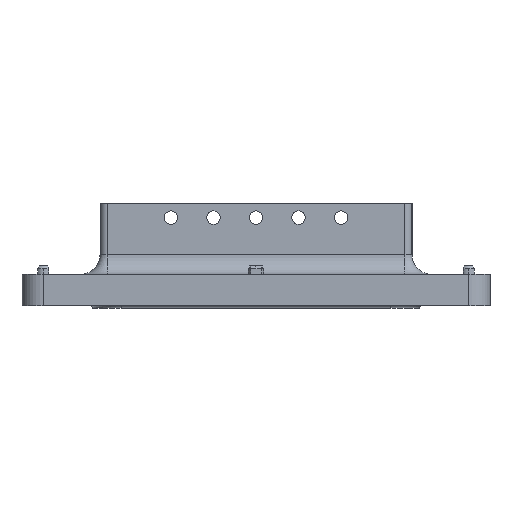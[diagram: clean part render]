
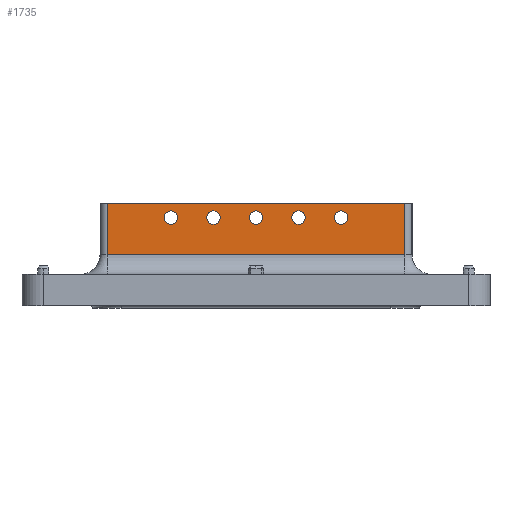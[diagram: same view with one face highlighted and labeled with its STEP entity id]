
A CAD part, left-side view. The second image highlights one B-rep face of the part: STEP entity #1735.
In plain terms, the highlighted planar face has unit normal (-1, 0, 0).
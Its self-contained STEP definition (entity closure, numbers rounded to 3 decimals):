
#1735=ADVANCED_FACE('Rib.2',(#4035,#4036,#4037,#4038,#4039,#4040),#4041,.T.);
#4035=FACE_OUTER_BOUND('',#7061,.T.);
#4036=FACE_BOUND('',#7062,.T.);
#4037=FACE_BOUND('',#7063,.T.);
#4038=FACE_BOUND('',#7064,.T.);
#4039=FACE_BOUND('',#7065,.T.);
#4040=FACE_BOUND('',#7066,.T.);
#4041=PLANE('',#7067);
#7061=EDGE_LOOP('',(#11917,#11918,#11919,#11920));
#7062=EDGE_LOOP('',(#11921,#11922,#11923,#11924));
#7063=EDGE_LOOP('',(#11925,#11926,#11927,#11928));
#7064=EDGE_LOOP('',(#11929,#11930,#11931,#11932));
#7065=EDGE_LOOP('',(#11933,#11934,#11935,#11936));
#7066=EDGE_LOOP('',(#11937,#11938,#11939,#11940));
#7067=AXIS2_PLACEMENT_3D('',#11941,#11942,#11943);
#11917=ORIENTED_EDGE('',*,*,#18582,.F.);
#11918=ORIENTED_EDGE('',*,*,#18644,.F.);
#11919=ORIENTED_EDGE('',*,*,#18641,.T.);
#11920=ORIENTED_EDGE('',*,*,#18542,.F.);
#11921=ORIENTED_EDGE('',*,*,#17392,.F.);
#11922=ORIENTED_EDGE('',*,*,#17395,.F.);
#11923=ORIENTED_EDGE('',*,*,#18645,.F.);
#11924=ORIENTED_EDGE('',*,*,#18646,.F.);
#11925=ORIENTED_EDGE('',*,*,#17095,.F.);
#11926=ORIENTED_EDGE('',*,*,#17098,.F.);
#11927=ORIENTED_EDGE('',*,*,#18647,.F.);
#11928=ORIENTED_EDGE('',*,*,#18648,.F.);
#11929=ORIENTED_EDGE('',*,*,#17356,.F.);
#11930=ORIENTED_EDGE('',*,*,#17359,.F.);
#11931=ORIENTED_EDGE('',*,*,#18649,.F.);
#11932=ORIENTED_EDGE('',*,*,#18650,.F.);
#11933=ORIENTED_EDGE('',*,*,#17140,.F.);
#11934=ORIENTED_EDGE('',*,*,#17143,.F.);
#11935=ORIENTED_EDGE('',*,*,#18651,.F.);
#11936=ORIENTED_EDGE('',*,*,#18652,.F.);
#11937=ORIENTED_EDGE('',*,*,#17239,.F.);
#11938=ORIENTED_EDGE('',*,*,#17242,.F.);
#11939=ORIENTED_EDGE('',*,*,#18653,.F.);
#11940=ORIENTED_EDGE('',*,*,#18654,.F.);
#11941=CARTESIAN_POINT('',(-185.0,110.0,74.0));
#11942=DIRECTION('',(-1.0,-0.0,-0.0));
#11943=DIRECTION('',(0.0,0.0,-1.0));
#17095=EDGE_CURVE('',#20314,#20310,#20316,.T.);
#17098=EDGE_CURVE('',#20318,#20314,#20321,.T.);
#17140=EDGE_CURVE('',#20389,#20385,#20391,.T.);
#17143=EDGE_CURVE('',#20393,#20389,#20396,.T.);
#17239=EDGE_CURVE('',#20554,#20550,#20556,.T.);
#17242=EDGE_CURVE('',#20558,#20554,#20561,.T.);
#17356=EDGE_CURVE('',#20749,#20745,#20751,.T.);
#17359=EDGE_CURVE('',#20753,#20749,#20756,.T.);
#17392=EDGE_CURVE('',#20809,#20805,#20811,.T.);
#17395=EDGE_CURVE('',#20813,#20809,#20816,.T.);
#18542=EDGE_CURVE('',#22643,#22667,#22671,.F.);
#18582=EDGE_CURVE('',#22723,#22643,#22725,.T.);
#18641=EDGE_CURVE('',#22818,#22667,#22819,.T.);
#18644=EDGE_CURVE('',#22818,#22723,#22822,.T.);
#18645=EDGE_CURVE('',#22823,#20813,#22824,.T.);
#18646=EDGE_CURVE('',#20805,#22823,#22825,.T.);
#18647=EDGE_CURVE('',#22826,#20318,#22827,.T.);
#18648=EDGE_CURVE('',#20310,#22826,#22828,.T.);
#18649=EDGE_CURVE('',#22829,#20753,#22830,.T.);
#18650=EDGE_CURVE('',#20745,#22829,#22831,.T.);
#18651=EDGE_CURVE('',#22832,#20393,#22833,.T.);
#18652=EDGE_CURVE('',#20385,#22832,#22834,.T.);
#18653=EDGE_CURVE('',#22835,#20558,#22836,.T.);
#18654=EDGE_CURVE('',#20550,#22835,#22837,.T.);
#20310=VERTEX_POINT('',#25031);
#20314=VERTEX_POINT('',#25036);
#20316=CIRCLE('',#25039,4.75);
#20318=VERTEX_POINT('',#25041);
#20321=CIRCLE('',#25045,4.75);
#20385=VERTEX_POINT('',#25121);
#20389=VERTEX_POINT('',#25126);
#20391=CIRCLE('',#25129,4.75);
#20393=VERTEX_POINT('',#25131);
#20396=CIRCLE('',#25135,4.75);
#20550=VERTEX_POINT('',#25319);
#20554=VERTEX_POINT('',#25324);
#20556=CIRCLE('',#25327,4.75);
#20558=VERTEX_POINT('',#25329);
#20561=CIRCLE('',#25333,4.75);
#20745=VERTEX_POINT('',#25553);
#20749=VERTEX_POINT('',#25558);
#20751=CIRCLE('',#25561,4.75);
#20753=VERTEX_POINT('',#25563);
#20756=CIRCLE('',#25567,4.75);
#20805=VERTEX_POINT('',#25625);
#20809=VERTEX_POINT('',#25630);
#20811=CIRCLE('',#25633,4.75);
#20813=VERTEX_POINT('',#25635);
#20816=CIRCLE('',#25639,4.75);
#22643=VERTEX_POINT('',#27804);
#22667=VERTEX_POINT('',#27831);
#22671=LINE('',#27835,#27836);
#22723=VERTEX_POINT('',#27893);
#22725=LINE('',#27895,#27896);
#22818=VERTEX_POINT('',#28005);
#22819=LINE('',#28006,#28007);
#22822=LINE('',#28010,#28011);
#22823=VERTEX_POINT('',#28012);
#22824=CIRCLE('',#28013,4.75);
#22825=CIRCLE('',#28014,4.75);
#22826=VERTEX_POINT('',#28015);
#22827=CIRCLE('',#28016,4.75);
#22828=CIRCLE('',#28017,4.75);
#22829=VERTEX_POINT('',#28018);
#22830=CIRCLE('',#28019,4.75);
#22831=CIRCLE('',#28020,4.75);
#22832=VERTEX_POINT('',#28021);
#22833=CIRCLE('',#28022,4.75);
#22834=CIRCLE('',#28023,4.75);
#22835=VERTEX_POINT('',#28024);
#22836=CIRCLE('',#28025,4.75);
#22837=CIRCLE('',#28026,4.75);
#25031=CARTESIAN_POINT('',(-185.0,64.75,64.0));
#25036=CARTESIAN_POINT('',(-185.0,55.831,66.277));
#25039=AXIS2_PLACEMENT_3D('',#30785,#30786,#30787);
#25041=CARTESIAN_POINT('',(-185.0,55.25,64.0));
#25045=AXIS2_PLACEMENT_3D('',#30789,#30790,#30791);
#25121=CARTESIAN_POINT('',(-185.0,-55.25,64.0));
#25126=CARTESIAN_POINT('',(-185.0,-64.169,66.277));
#25129=AXIS2_PLACEMENT_3D('',#30860,#30861,#30862);
#25131=CARTESIAN_POINT('',(-185.0,-64.75,64.0));
#25135=AXIS2_PLACEMENT_3D('',#30864,#30865,#30866);
#25319=CARTESIAN_POINT('',(-185.0,-25.25,64.0));
#25324=CARTESIAN_POINT('',(-185.0,-34.169,66.277));
#25327=AXIS2_PLACEMENT_3D('',#31025,#31026,#31027);
#25329=CARTESIAN_POINT('',(-185.0,-34.75,64.0));
#25333=AXIS2_PLACEMENT_3D('',#31029,#31030,#31031);
#25553=CARTESIAN_POINT('',(-185.0,34.75,64.0));
#25558=CARTESIAN_POINT('',(-185.0,25.831,66.277));
#25561=AXIS2_PLACEMENT_3D('',#31220,#31221,#31222);
#25563=CARTESIAN_POINT('',(-185.0,25.25,64.0));
#25567=AXIS2_PLACEMENT_3D('',#31224,#31225,#31226);
#25625=CARTESIAN_POINT('',(-185.0,4.75,64.0));
#25630=CARTESIAN_POINT('',(-185.0,-4.169,66.277));
#25633=AXIS2_PLACEMENT_3D('',#31280,#31281,#31282);
#25635=CARTESIAN_POINT('',(-185.0,-4.75,64.0));
#25639=AXIS2_PLACEMENT_3D('',#31284,#31285,#31286);
#27804=CARTESIAN_POINT('',(-185.0,-105.0,38.0));
#27831=CARTESIAN_POINT('',(-185.0,105.0,38.0));
#27835=CARTESIAN_POINT('',(-185.0,0.,38.0));
#27836=VECTOR('',#33371,1.0);
#27893=CARTESIAN_POINT('',(-185.0,-105.0,74.0));
#27895=CARTESIAN_POINT('',(-185.0,-105.0,56.0));
#27896=VECTOR('',#33440,1.0);
#28005=CARTESIAN_POINT('',(-185.0,105.0,74.0));
#28006=CARTESIAN_POINT('',(-185.0,105.0,56.0));
#28007=VECTOR('',#33565,1.0);
#28010=CARTESIAN_POINT('',(-185.0,0.0,74.0));
#28011=VECTOR('',#33569,1.0);
#28012=CARTESIAN_POINT('',(-185.0,4.169,61.723));
#28013=AXIS2_PLACEMENT_3D('',#33570,#33571,#33572);
#28014=AXIS2_PLACEMENT_3D('',#33573,#33574,#33575);
#28015=CARTESIAN_POINT('',(-185.0,64.169,61.723));
#28016=AXIS2_PLACEMENT_3D('',#33576,#33577,#33578);
#28017=AXIS2_PLACEMENT_3D('',#33579,#33580,#33581);
#28018=CARTESIAN_POINT('',(-185.0,34.169,61.723));
#28019=AXIS2_PLACEMENT_3D('',#33582,#33583,#33584);
#28020=AXIS2_PLACEMENT_3D('',#33585,#33586,#33587);
#28021=CARTESIAN_POINT('',(-185.0,-55.831,61.723));
#28022=AXIS2_PLACEMENT_3D('',#33588,#33589,#33590);
#28023=AXIS2_PLACEMENT_3D('',#33591,#33592,#33593);
#28024=CARTESIAN_POINT('',(-185.0,-25.831,61.723));
#28025=AXIS2_PLACEMENT_3D('',#33594,#33595,#33596);
#28026=AXIS2_PLACEMENT_3D('',#33597,#33598,#33599);
#30785=CARTESIAN_POINT('',(-185.0,60.0,64.0));
#30786=DIRECTION('',(-1.0,-0.0,-0.0));
#30787=DIRECTION('',(0.0,0.0,-1.0));
#30789=CARTESIAN_POINT('',(-185.0,60.0,64.0));
#30790=DIRECTION('',(-1.0,-0.0,-0.0));
#30791=DIRECTION('',(0.0,0.0,-1.0));
#30860=CARTESIAN_POINT('',(-185.0,-60.0,64.0));
#30861=DIRECTION('',(-1.0,-0.0,-0.0));
#30862=DIRECTION('',(0.0,0.0,-1.0));
#30864=CARTESIAN_POINT('',(-185.0,-60.0,64.0));
#30865=DIRECTION('',(-1.0,-0.0,-0.0));
#30866=DIRECTION('',(0.0,0.0,-1.0));
#31025=CARTESIAN_POINT('',(-185.0,-30.0,64.0));
#31026=DIRECTION('',(-1.0,-0.0,-0.0));
#31027=DIRECTION('',(0.0,0.0,-1.0));
#31029=CARTESIAN_POINT('',(-185.0,-30.0,64.0));
#31030=DIRECTION('',(-1.0,-0.0,-0.0));
#31031=DIRECTION('',(0.0,0.0,-1.0));
#31220=CARTESIAN_POINT('',(-185.0,30.0,64.0));
#31221=DIRECTION('',(-1.0,-0.0,-0.0));
#31222=DIRECTION('',(0.0,0.0,-1.0));
#31224=CARTESIAN_POINT('',(-185.0,30.0,64.0));
#31225=DIRECTION('',(-1.0,-0.0,-0.0));
#31226=DIRECTION('',(0.0,0.0,-1.0));
#31280=CARTESIAN_POINT('',(-185.0,0.0,64.0));
#31281=DIRECTION('',(-1.0,-0.0,-0.0));
#31282=DIRECTION('',(0.0,0.0,-1.0));
#31284=CARTESIAN_POINT('',(-185.0,0.0,64.0));
#31285=DIRECTION('',(-1.0,-0.0,-0.0));
#31286=DIRECTION('',(0.0,0.0,-1.0));
#33371=DIRECTION('',(0.0,-1.0,0.0));
#33440=DIRECTION('',(0.0,0.0,-1.0));
#33565=DIRECTION('',(0.0,0.0,-1.0));
#33569=DIRECTION('',(0.0,-1.0,0.0));
#33570=CARTESIAN_POINT('',(-185.0,0.0,64.0));
#33571=DIRECTION('',(-1.0,-0.0,-0.0));
#33572=DIRECTION('',(0.0,0.0,-1.0));
#33573=CARTESIAN_POINT('',(-185.0,0.0,64.0));
#33574=DIRECTION('',(-1.0,-0.0,-0.0));
#33575=DIRECTION('',(0.0,0.0,-1.0));
#33576=CARTESIAN_POINT('',(-185.0,60.0,64.0));
#33577=DIRECTION('',(-1.0,-0.0,-0.0));
#33578=DIRECTION('',(0.0,0.0,-1.0));
#33579=CARTESIAN_POINT('',(-185.0,60.0,64.0));
#33580=DIRECTION('',(-1.0,-0.0,-0.0));
#33581=DIRECTION('',(0.0,0.0,-1.0));
#33582=CARTESIAN_POINT('',(-185.0,30.0,64.0));
#33583=DIRECTION('',(-1.0,-0.0,-0.0));
#33584=DIRECTION('',(0.0,0.0,-1.0));
#33585=CARTESIAN_POINT('',(-185.0,30.0,64.0));
#33586=DIRECTION('',(-1.0,-0.0,-0.0));
#33587=DIRECTION('',(0.0,0.0,-1.0));
#33588=CARTESIAN_POINT('',(-185.0,-60.0,64.0));
#33589=DIRECTION('',(-1.0,-0.0,-0.0));
#33590=DIRECTION('',(0.0,0.0,-1.0));
#33591=CARTESIAN_POINT('',(-185.0,-60.0,64.0));
#33592=DIRECTION('',(-1.0,-0.0,-0.0));
#33593=DIRECTION('',(0.0,0.0,-1.0));
#33594=CARTESIAN_POINT('',(-185.0,-30.0,64.0));
#33595=DIRECTION('',(-1.0,-0.0,-0.0));
#33596=DIRECTION('',(0.0,0.0,-1.0));
#33597=CARTESIAN_POINT('',(-185.0,-30.0,64.0));
#33598=DIRECTION('',(-1.0,-0.0,-0.0));
#33599=DIRECTION('',(0.0,0.0,-1.0));
